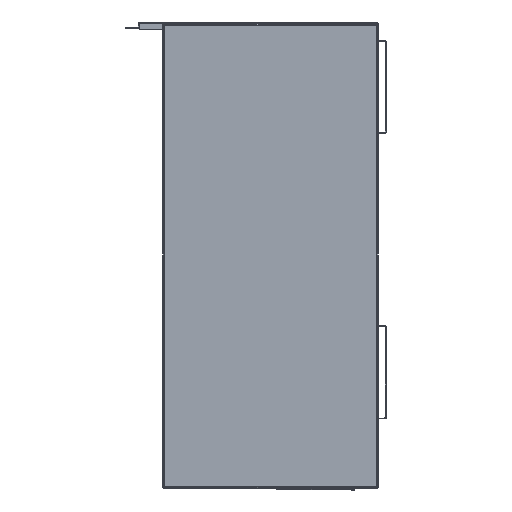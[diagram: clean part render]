
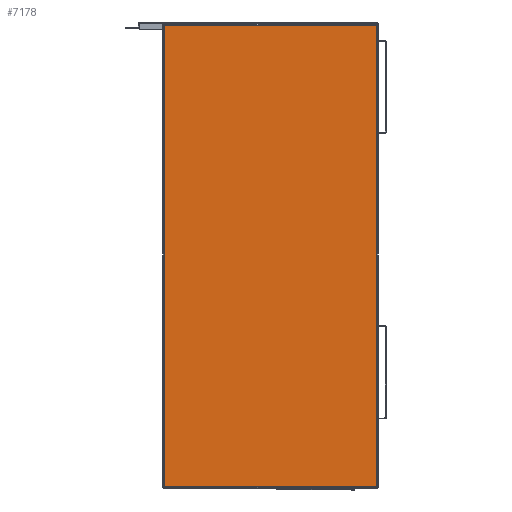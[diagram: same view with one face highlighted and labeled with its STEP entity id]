
A CAD part, left-side view. The second image highlights one B-rep face of the part: STEP entity #7178.
In plain terms, the highlighted planar face has unit normal (-1, 0, 0) as drawn and (0, 1, 0) by its records, which use the part's own axes.
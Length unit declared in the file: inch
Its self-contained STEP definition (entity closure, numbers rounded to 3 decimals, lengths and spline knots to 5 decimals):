
#587 = CARTESIAN_POINT ( 'NONE',  ( 17.05744, 23.92024, -13.79013 ) ) ;
#2148 = ORIENTED_EDGE ( 'NONE', *, *, #7873, .F. ) ;
#4229 = LINE ( 'NONE', #19455, #18444 ) ;
#4428 = LINE ( 'NONE', #14412, #31639 ) ;
#4642 = DIRECTION ( 'NONE',  ( -1., 0., 0. ) ) ;
#5865 = VERTEX_POINT ( 'NONE', #23105 ) ;
#6057 = ORIENTED_EDGE ( 'NONE', *, *, #21308, .F. ) ;
#6086 = VERTEX_POINT ( 'NONE', #12607 ) ;
#7178 = ADVANCED_FACE ( 'NONE', ( #14290 ), #31986, .T. ) ;
#7265 = LINE ( 'NONE', #26746, #10753 ) ;
#7873 = EDGE_CURVE ( 'NONE', #18751, #5865, #29996, .T. ) ;
#8327 = VECTOR ( 'NONE', #25246, 39.37008 ) ;
#9710 = DIRECTION ( 'NONE',  ( 0., 0., -1. ) ) ;
#10753 = VECTOR ( 'NONE', #4642, 39.37008 ) ;
#10890 = EDGE_LOOP ( 'NONE', ( #2148, #30035, #19566, #6057 ) ) ;
#12607 = CARTESIAN_POINT ( 'NONE',  ( -12.67481, 23.92024, -0.08488 ) ) ;
#14290 = FACE_OUTER_BOUND ( 'NONE', #10890, .T. ) ;
#14412 = CARTESIAN_POINT ( 'NONE',  ( -12.67481, 23.92024, -13.79013 ) ) ;
#16825 = DIRECTION ( 'NONE',  ( 0., 0., 1. ) ) ;
#17372 = CARTESIAN_POINT ( 'NONE',  ( 17.05744, 23.92024, -13.875 ) ) ;
#18444 = VECTOR ( 'NONE', #16825, 39.37008 ) ;
#18751 = VERTEX_POINT ( 'NONE', #587 ) ;
#19455 = CARTESIAN_POINT ( 'NONE',  ( -12.67481, 23.92024, -13.875 ) ) ;
#19566 = ORIENTED_EDGE ( 'NONE', *, *, #26716, .T. ) ;
#21308 = EDGE_CURVE ( 'NONE', #5865, #6086, #7265, .T. ) ;
#23105 = CARTESIAN_POINT ( 'NONE',  ( 17.05744, 23.92024, -0.08488 ) ) ;
#24049 = AXIS2_PLACEMENT_3D ( 'NONE', #26902, #24939, #9710 ) ;
#24939 = DIRECTION ( 'NONE',  ( 0., 1., 0. ) ) ;
#25246 = DIRECTION ( 'NONE',  ( 0., 0., 1. ) ) ;
#26716 = EDGE_CURVE ( 'NONE', #30395, #6086, #4229, .T. ) ;
#26746 = CARTESIAN_POINT ( 'NONE',  ( 17.05744, 23.92024, -0.08488 ) ) ;
#26902 = CARTESIAN_POINT ( 'NONE',  ( 17.14231, 23.92024, -13.875 ) ) ;
#28183 = CARTESIAN_POINT ( 'NONE',  ( -12.67481, 23.92024, -13.79012 ) ) ;
#29655 = DIRECTION ( 'NONE',  ( 1., 0., 0. ) ) ;
#29996 = LINE ( 'NONE', #17372, #8327 ) ;
#30035 = ORIENTED_EDGE ( 'NONE', *, *, #30707, .F. ) ;
#30395 = VERTEX_POINT ( 'NONE', #28183 ) ;
#30707 = EDGE_CURVE ( 'NONE', #30395, #18751, #4428, .T. ) ;
#31639 = VECTOR ( 'NONE', #29655, 39.37008 ) ;
#31986 = PLANE ( 'NONE',  #24049 ) ;
